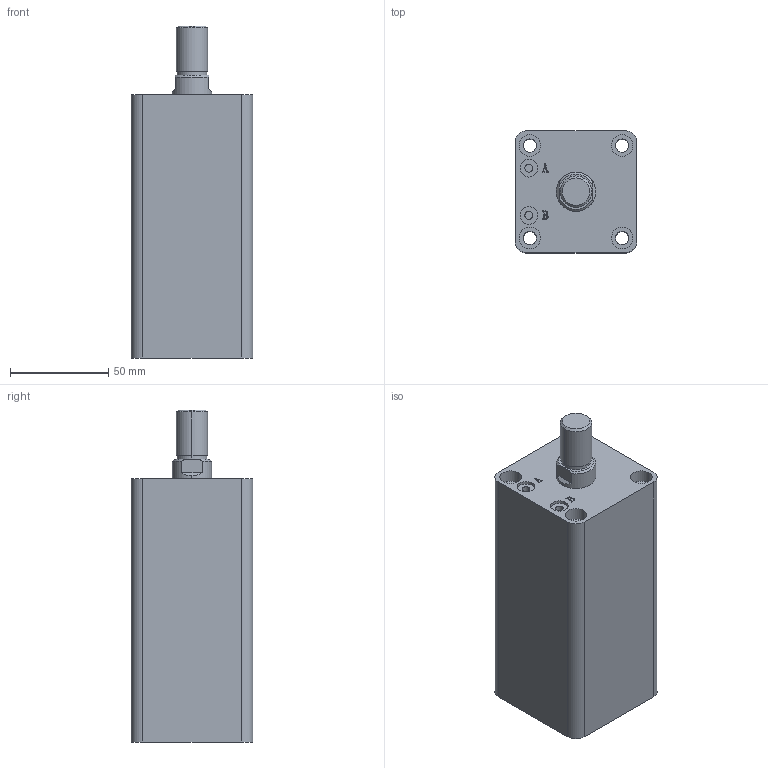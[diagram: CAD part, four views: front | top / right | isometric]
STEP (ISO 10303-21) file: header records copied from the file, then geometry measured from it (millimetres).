
FILE_DESCRIPTION (( 'STEP AP203' ), '1' );
FILE_NAME ('HTB-SDMA32-80W.STEP', '2019-10-07T11:44:29', ( '微软用户' ), ( '微软中国' ), 'SwSTEP 2.0', 'SolidWorks 2012', '' );
FILE_SCHEMA (( 'CONFIG_CONTROL_DESIGN' ));
Length unit declared in the file: millimetre
Products named in the file (3): HTB-SDMA32-80W; HTB-SDMA32-80W活塞杆; HTB-SDMA32-80掛极
Assembly tree (2 placements, depth 2):
  HTB-SDMA32-80W
    HTB-SDMA32-80掛极
    HTB-SDMA32-80W活塞杆
Bounding box: 62 x 62 x 169 mm (x, y, z)
Volume: 456665.1 mm3; surface area: 76072.5 mm2
Topology: 2 solids, 2 shells, 141 faces, 337 edges, 222 vertices
Faces by surface type: plane 67, cylinder 48, bspline 16, torus 6, cone 4
Entity records: 5176 total; most frequent: CARTESIAN_POINT 1593, ORIENTED_EDGE 674, DIRECTION 669, EDGE_CURVE 337, AXIS2_PLACEMENT_3D 242, VERTEX_POINT 222, VECTOR 185, LINE 185
